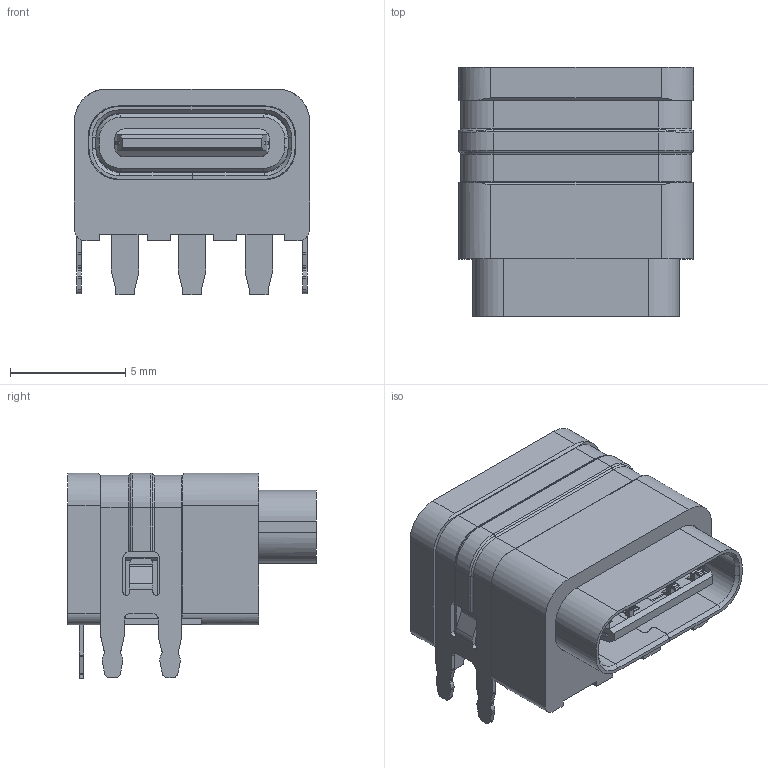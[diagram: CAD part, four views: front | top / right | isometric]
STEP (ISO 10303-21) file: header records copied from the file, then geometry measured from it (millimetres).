
FILE_DESCRIPTION(('CoCreate Modeling STEP Export'),'2;1');
FILE_NAME('UH0B01-072-CF3P DIP垫高防水型成品.stp','2022-09-17T14:11:03',(''),(''),'CoCreate Modeling STEP processor for AP214 (Solid Model)','CoCreate Modeling 16.00 13-May-2008 (C) Parametric Technology GmbH','');
FILE_SCHEMA(('AUTOMOTIVE_DESIGN { 1 0 10303 214 1 1 1 1 }'));
Length unit declared in the file: millimetre
Products named in the file (2): HOUSING3.1.1.1.1.2
Assembly tree (1 placements, depth 2):
  HOUSING3.1.1.1.1.2
    HOUSING3.1.1.1.1.2
Bounding box: 10.2 x 10.8 x 8.93 mm (x, y, z)
Surface area: 1343.7 mm2 (no closed solid volume)
Topology: 0 solids, 20 shells, 1206 faces, 3409 edges, 2188 vertices
Faces by surface type: plane 884, cylinder 278, cone 24, torus 16, bspline 4
Entity records: 39262 total; most frequent: ORIENTED_EDGE 6858, CARTESIAN_POINT 6836, DIRECTION 5685, EDGE_CURVE 3408, VECTOR 2567, LINE 2567, VERTEX_POINT 2187, AXIS2_PLACEMENT_3D 1559
